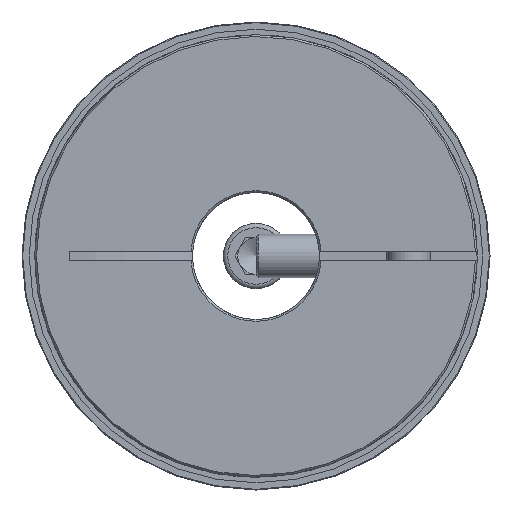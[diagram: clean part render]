
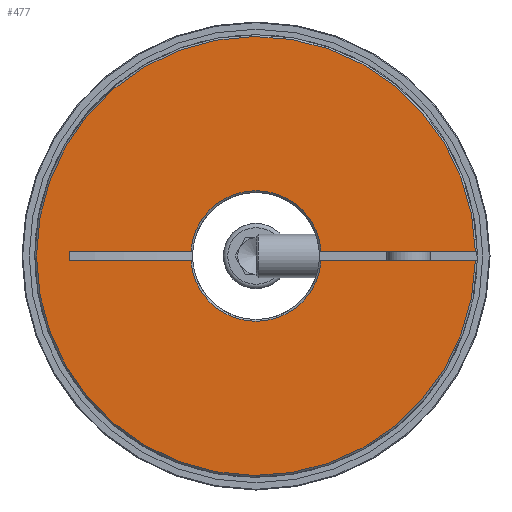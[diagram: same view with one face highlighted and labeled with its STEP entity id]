
A CAD part, left-side view. The second image highlights one B-rep face of the part: STEP entity #477.
In plain terms, the highlighted planar face has unit normal (-1, 0, 0).
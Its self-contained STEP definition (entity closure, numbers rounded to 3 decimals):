
#477 = ADVANCED_FACE( 'NONE', ( #918 ), #919, .F. );
#918 = FACE_OUTER_BOUND( '', #1404, .T. );
#919 = PLANE( '', #1405 );
#1404 = EDGE_LOOP( '', ( #2209, #2210, #2211, #2212, #2213, #2214, #2215, #2216 ) );
#1405 = AXIS2_PLACEMENT_3D( '', #2217, #2218, #2219 );
#2209 = ORIENTED_EDGE( '', *, *, #2791, .T. );
#2210 = ORIENTED_EDGE( '', *, *, #2784, .T. );
#2211 = ORIENTED_EDGE( '', *, *, #2793, .T. );
#2212 = ORIENTED_EDGE( '', *, *, #2794, .T. );
#2213 = ORIENTED_EDGE( '', *, *, #2776, .F. );
#2214 = ORIENTED_EDGE( '', *, *, #2774, .T. );
#2215 = ORIENTED_EDGE( '', *, *, #2780, .F. );
#2216 = ORIENTED_EDGE( '', *, *, #2783, .T. );
#2217 = CARTESIAN_POINT( '', ( 0., 17.5, 0. ) );
#2218 = DIRECTION( '', ( 1., 0., 0. ) );
#2219 = DIRECTION( '', ( 0., 1., 0. ) );
#2774 = EDGE_CURVE( 'NONE', #3161, #3159, #3162, .T. );
#2776 = EDGE_CURVE( 'NONE', #3161, #3164, #3165, .F. );
#2780 = EDGE_CURVE( 'NONE', #3170, #3159, #3171, .F. );
#2783 = EDGE_CURVE( 'NONE', #3170, #3173, #3175, .T. );
#2784 = EDGE_CURVE( 'NONE', #3176, #3177, #3178, .T. );
#2791 = EDGE_CURVE( 'NONE', #3173, #3176, #3186, .T. );
#2793 = EDGE_CURVE( 'NONE', #3177, #3189, #3190, .T. );
#2794 = EDGE_CURVE( 'NONE', #3189, #3164, #3191, .F. );
#3159 = VERTEX_POINT( 'NONE', #4338 );
#3161 = VERTEX_POINT( 'NONE', #4343 );
#3162 = CIRCLE( '', #4344, 18. );
#3164 = VERTEX_POINT( 'NONE', #4349 );
#3165 = LINE( '', #4350, #4351 );
#3170 = VERTEX_POINT( 'NONE', #4360 );
#3171 = LINE( '', #4361, #4362 );
#3173 = VERTEX_POINT( 'NONE', #4364 );
#3175 = LINE( '', #4366, #4367 );
#3176 = VERTEX_POINT( 'NONE', #4368 );
#3177 = VERTEX_POINT( 'NONE', #4369 );
#3178 = CIRCLE( '', #4370, 18. );
#3186 = LINE( '', #4385, #4386 );
#3189 = VERTEX_POINT( 'NONE', #4389 );
#3190 = LINE( '', #4390, #4391 );
#3191 = CIRCLE( '', #4392, 60.5 );
#4338 = CARTESIAN_POINT( '', ( 0., 17.953, -1.3 ) );
#4343 = CARTESIAN_POINT( '', ( 0., -17.953, -1.3 ) );
#4344 = AXIS2_PLACEMENT_3D( '', #4843, #4844, #4845 );
#4349 = CARTESIAN_POINT( '', ( 0., -60.486, -1.3 ) );
#4350 = CARTESIAN_POINT( '', ( 0., -13., -1.3 ) );
#4351 = VECTOR( '', #4846, 1000. );
#4360 = CARTESIAN_POINT( '', ( 0., 51.446, -1.3 ) );
#4361 = CARTESIAN_POINT( '', ( 0., -13., -1.3 ) );
#4362 = VECTOR( '', #4851, 1000. );
#4364 = CARTESIAN_POINT( '', ( 0., 51.446, 1.3 ) );
#4366 = CARTESIAN_POINT( '', ( 0., 51.446, -1.3 ) );
#4367 = VECTOR( '', #4858, 1000. );
#4368 = CARTESIAN_POINT( '', ( 0., 17.953, 1.3 ) );
#4369 = CARTESIAN_POINT( '', ( 0., -17.953, 1.3 ) );
#4370 = AXIS2_PLACEMENT_3D( '', #4859, #4860, #4861 );
#4385 = CARTESIAN_POINT( '', ( 0., 17.5, 1.3 ) );
#4386 = VECTOR( '', #4872, 1000. );
#4389 = CARTESIAN_POINT( '', ( 0., -60.486, 1.3 ) );
#4390 = CARTESIAN_POINT( '', ( 0., 17.5, 1.3 ) );
#4391 = VECTOR( '', #4876, 1000. );
#4392 = AXIS2_PLACEMENT_3D( '', #4877, #4878, #4879 );
#4843 = CARTESIAN_POINT( '', ( 0., 0., 0. ) );
#4844 = DIRECTION( '', ( 1., 0., 0. ) );
#4845 = DIRECTION( '', ( 0., 0., -1. ) );
#4846 = DIRECTION( '', ( 0., 1., 0. ) );
#4851 = DIRECTION( '', ( 0., 1., 0. ) );
#4858 = DIRECTION( '', ( 0., 0., 1. ) );
#4859 = CARTESIAN_POINT( '', ( 0., 0., 0. ) );
#4860 = DIRECTION( '', ( 1., 0., 0. ) );
#4861 = DIRECTION( '', ( 0., 0., -1. ) );
#4872 = DIRECTION( '', ( 0., -1., 0. ) );
#4876 = DIRECTION( '', ( 0., -1., 0. ) );
#4877 = CARTESIAN_POINT( '', ( 0., 0., 0. ) );
#4878 = DIRECTION( '', ( 1., 0., 0. ) );
#4879 = DIRECTION( '', ( 0., 0., -1. ) );
